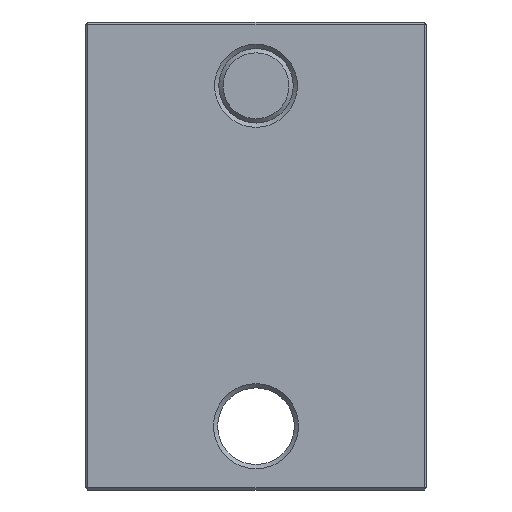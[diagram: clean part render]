
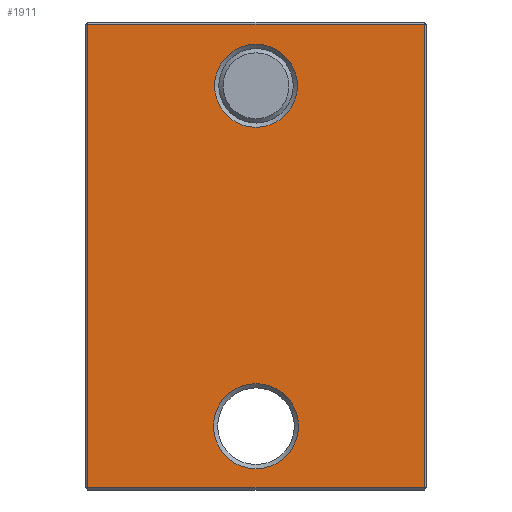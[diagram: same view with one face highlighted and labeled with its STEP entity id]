
A CAD part, front view. The second image highlights one B-rep face of the part: STEP entity #1911.
In plain terms, the highlighted planar face has unit normal (0, -1, 0).
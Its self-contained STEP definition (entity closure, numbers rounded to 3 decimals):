
#1067=CARTESIAN_POINT('',(-417.619,-500.109,-95.809));
#1068=VERTEX_POINT('',#1067);
#1075=CARTESIAN_POINT('',(-417.619,-500.109,-75.809));
#1076=VERTEX_POINT('',#1075);
#1077=CARTESIAN_POINT('',(-417.619,-500.109,-85.809));
#1078=DIRECTION('',(0.0,1.0,0.0));
#1079=DIRECTION('',(0.0,0.0,-1.0));
#1080=AXIS2_PLACEMENT_3D('',#1077,#1078,#1079);
#1081=CIRCLE('',#1080,10.0);
#1082=EDGE_CURVE('',#1076,#1068,#1081,.T.);
#1084=CARTESIAN_POINT('',(-417.619,-500.109,-85.809));
#1085=DIRECTION('',(0.0,1.0,0.0));
#1086=DIRECTION('',(0.0,0.0,-1.0));
#1087=AXIS2_PLACEMENT_3D('',#1084,#1085,#1086);
#1088=CIRCLE('',#1087,10.0);
#1089=EDGE_CURVE('',#1068,#1076,#1088,.T.);
#1238=CARTESIAN_POINT('',(-417.619,-500.109,-15.559));
#1239=VERTEX_POINT('',#1238);
#1246=CARTESIAN_POINT('',(-417.619,-500.109,3.941));
#1247=VERTEX_POINT('',#1246);
#1248=CARTESIAN_POINT('',(-417.619,-500.109,-5.809));
#1249=DIRECTION('',(0.0,1.0,0.0));
#1250=DIRECTION('',(0.0,0.0,-1.0));
#1251=AXIS2_PLACEMENT_3D('',#1248,#1249,#1250);
#1252=CIRCLE('',#1251,9.75);
#1253=EDGE_CURVE('',#1247,#1239,#1252,.T.);
#1255=CARTESIAN_POINT('',(-417.619,-500.109,-5.809));
#1256=DIRECTION('',(0.0,1.0,0.0));
#1257=DIRECTION('',(0.0,0.0,-1.0));
#1258=AXIS2_PLACEMENT_3D('',#1255,#1256,#1257);
#1259=CIRCLE('',#1258,9.75);
#1260=EDGE_CURVE('',#1239,#1247,#1259,.T.);
#1345=CARTESIAN_POINT('',(-378.119,-500.109,-100.309));
#1346=VERTEX_POINT('',#1345);
#1353=CARTESIAN_POINT('',(-457.119,-500.109,-100.309));
#1354=VERTEX_POINT('',#1353);
#1355=CARTESIAN_POINT('',(-457.119,-500.109,-100.309));
#1356=DIRECTION('',(1.0,0.0,0.0));
#1357=VECTOR('',#1356,79.0);
#1358=LINE('',#1355,#1357);
#1359=EDGE_CURVE('',#1354,#1346,#1358,.T.);
#1387=CARTESIAN_POINT('',(-378.119,-500.109,8.691));
#1388=VERTEX_POINT('',#1387);
#1389=CARTESIAN_POINT('',(-378.119,-500.109,-100.309));
#1390=DIRECTION('',(0.0,0.0,1.0));
#1391=VECTOR('',#1390,109.0);
#1392=LINE('',#1389,#1391);
#1393=EDGE_CURVE('',#1346,#1388,#1392,.T.);
#1485=CARTESIAN_POINT('',(-457.119,-500.109,8.691));
#1486=VERTEX_POINT('',#1485);
#1487=CARTESIAN_POINT('',(-378.119,-500.109,8.691));
#1488=DIRECTION('',(-1.0,0.0,0.0));
#1489=VECTOR('',#1488,79.0);
#1490=LINE('',#1487,#1489);
#1491=EDGE_CURVE('',#1388,#1486,#1490,.T.);
#1583=CARTESIAN_POINT('',(-457.119,-500.109,8.691));
#1584=DIRECTION('',(0.0,0.0,-1.0));
#1585=VECTOR('',#1584,109.0);
#1586=LINE('',#1583,#1585);
#1587=EDGE_CURVE('',#1486,#1354,#1586,.T.);
#1892=CARTESIAN_POINT('',(-465.619,-500.109,20.191));
#1893=DIRECTION('',(0.0,-1.0,0.0));
#1894=DIRECTION('',(0.0,0.0,-1.0));
#1895=AXIS2_PLACEMENT_3D('',#1892,#1893,#1894);
#1896=PLANE('',#1895);
#1897=ORIENTED_EDGE('',*,*,#1359,.T.);
#1898=ORIENTED_EDGE('',*,*,#1393,.T.);
#1899=ORIENTED_EDGE('',*,*,#1491,.T.);
#1900=ORIENTED_EDGE('',*,*,#1587,.T.);
#1901=EDGE_LOOP('',(#1897,#1898,#1899,#1900));
#1902=FACE_OUTER_BOUND('',#1901,.T.);
#1903=ORIENTED_EDGE('',*,*,#1089,.T.);
#1904=ORIENTED_EDGE('',*,*,#1082,.T.);
#1905=EDGE_LOOP('',(#1903,#1904));
#1906=FACE_BOUND('',#1905,.T.);
#1907=ORIENTED_EDGE('',*,*,#1260,.T.);
#1908=ORIENTED_EDGE('',*,*,#1253,.T.);
#1909=EDGE_LOOP('',(#1907,#1908));
#1910=FACE_BOUND('',#1909,.T.);
#1911=ADVANCED_FACE('',(#1902,#1906,#1910),#1896,.T.);
